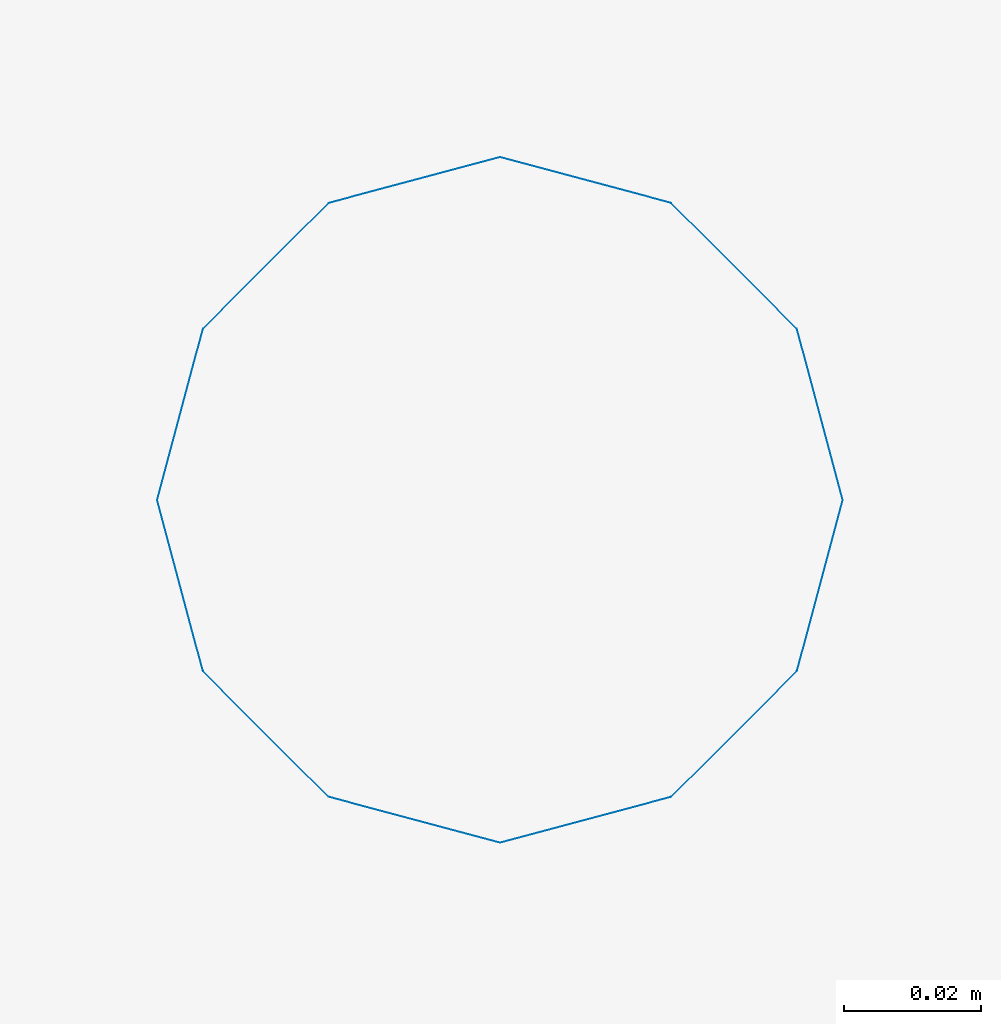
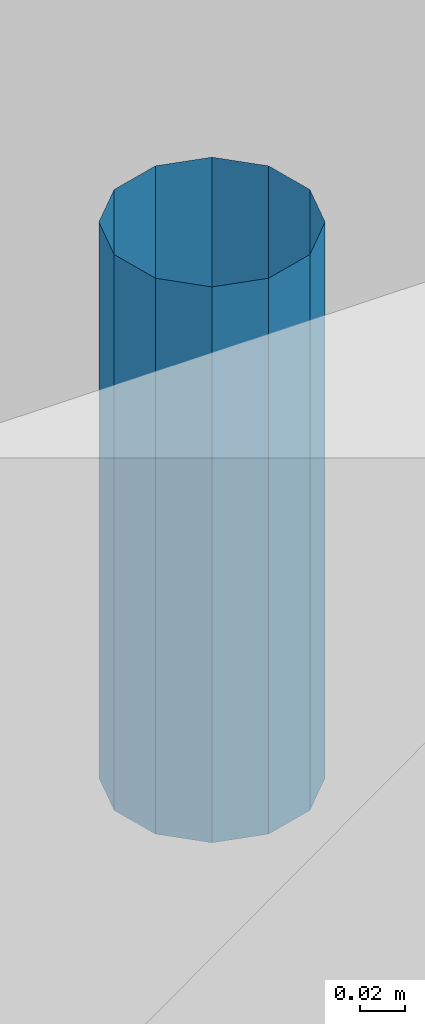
# One storey, part 22 of 41: 1 discrete accessory.
"""IFC2X3 building model written with IfcOpenShell, lengths in millimetres."""

from ifc_helpers import new_model, entity, si_unit, converted_unit, derived_unit, money_unit, direction, frame, origin_with_axes, place, context, subcontext, project, spatial, open_shell, surface_model, source, transform, mapped, type_object, element, save


model = new_model("IFC2X3")

# Units and contexts
model_context = context("Model", 3, precision=0.01, world=origin_with_axes(), true_north=direction((0.0, 1.0)))
body_context = subcontext(model_context, "Body", "Model", "MODEL_VIEW")
ifc_project = project(units=[si_unit("LENGTHUNIT", "METRE", prefix="MILLI"), si_unit("AREAUNIT", "SQUARE_METRE"), si_unit("VOLUMEUNIT", "CUBIC_METRE"), converted_unit("PLANEANGLEUNIT", "DEGREE", entity("IfcPlaneAngleMeasure", 0.0174532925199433), si_unit("PLANEANGLEUNIT", "RADIAN"), dimensions=[0, 0, 0, 0, 0, 0, 0]), money_unit("USD"), converted_unit("TIMEUNIT", "Year", entity("IfcTimeMeasure", 31557600.0), si_unit("TIMEUNIT", "SECOND"), dimensions=[0, 0, 1, 0, 0, 0, 0]), si_unit("MASSUNIT", "GRAM", prefix="KILO"), si_unit("THERMODYNAMICTEMPERATUREUNIT", "DEGREE_CELSIUS"), si_unit("LUMINOUSINTENSITYUNIT", "LUMEN"), si_unit("ENERGYUNIT", "JOULE", prefix="MEGA"), derived_unit("THERMALCONDUCTANCEUNIT", [(si_unit("POWERUNIT", "WATT"), 1), (si_unit("LENGTHUNIT", "METRE"), -1), (si_unit("THERMODYNAMICTEMPERATUREUNIT", "KELVIN"), -1)]), derived_unit("SPECIFICHEATCAPACITYUNIT", [(si_unit("ENERGYUNIT", "JOULE"), 1), (si_unit("MASSUNIT", "GRAM", prefix="KILO"), -1), (si_unit("THERMODYNAMICTEMPERATUREUNIT", "KELVIN"), -1)]), derived_unit("MASSDENSITYUNIT", [(si_unit("MASSUNIT", "GRAM", prefix="KILO"), 1), (si_unit("VOLUMEUNIT", "CUBIC_METRE"), -1)])], contexts=[model_context])

# Site, building, storey
site_placement = place(None, origin_with_axes())
site = spatial("IfcSite", under=ifc_project, at=site_placement, Name="Site", CompositionType="ELEMENT")
building_placement = place(site_placement, origin_with_axes())
building = spatial("IfcBuilding", under=site, at=building_placement, Name="Bâtiment", CompositionType="ELEMENT")
storey_placement = place(building_placement, origin_with_axes())
storey = spatial("IfcBuildingStorey", under=building, at=storey_placement, Name="sousol", CompositionType="ELEMENT", Elevation=0.0)

# Discrete accessory
discrete_accessory_type = type_object("IfcDiscreteAccessoryType", Name="Tuyau descente 27")
shared_shape = source(origin_with_axes(), body_context, "Body", "SurfaceModel", [
    surface_model("IfcShellBasedSurfaceModel", [(-50.0, 0.0, 300.0), (-50.0, 0.0, 0.0), (-43.30127018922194, -25.0, 0.0), (-43.30127018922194, -25.0, 300.0), (-43.30127018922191, 25.00000000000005, 300.0), (-43.30127018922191, 25.00000000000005, 0.0), (-25.00000000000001, -43.30127018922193, 0.0), (-25.00000000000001, -43.30127018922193, 300.0), (-24.99999999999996, 43.30127018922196, 300.0), (-24.99999999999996, 43.30127018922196, 0.0), (0.0, -50.0, 0.0), (0.0, -50.0, 300.0), (0.0, 50.0, 300.0), (0.0, 50.0, 0.0), (24.99999999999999, -43.30127018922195, 0.0), (24.99999999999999, -43.30127018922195, 300.0), (25.00000000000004, 43.30127018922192, 300.0), (25.00000000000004, 43.30127018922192, 0.0), (43.30127018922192, -25.00000000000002, 0.0), (43.30127018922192, -25.00000000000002, 300.0), (43.30127018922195, 24.99999999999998, 300.0), (43.30127018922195, 24.99999999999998, 0.0), (50.0, 0.0, 0.0), (50.0, 0.0, 300.0)], [open_shell([[[0, 1, 2, 3]], [[4, 5, 1, 0]], [[3, 2, 6, 7]], [[8, 9, 5, 4]], [[7, 6, 10, 11]], [[12, 13, 9, 8]], [[11, 10, 14, 15]], [[16, 17, 13, 12]], [[15, 14, 18, 19]], [[20, 21, 17, 16]], [[19, 18, 22, 23]], [[23, 22, 21, 20]]])]),
])
discrete_accessory_placement = place(storey_placement, frame((2233095.714705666, -646651.6255133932, 2700.0), z_axis=(0.0, 0.0, 1.0), x_axis=(-1.0, 0.0, 0.0)))
element("IfcDiscreteAccessory", 1, at=discrete_accessory_placement, inside=storey, type_object=discrete_accessory_type, Name="Obj.-318", context=body_context, shape_type="MappedRepresentation", body=[
    mapped(shared_shape, transform((0.0, 0.0, 0.0))),
])

save(model, "model.ifc")
